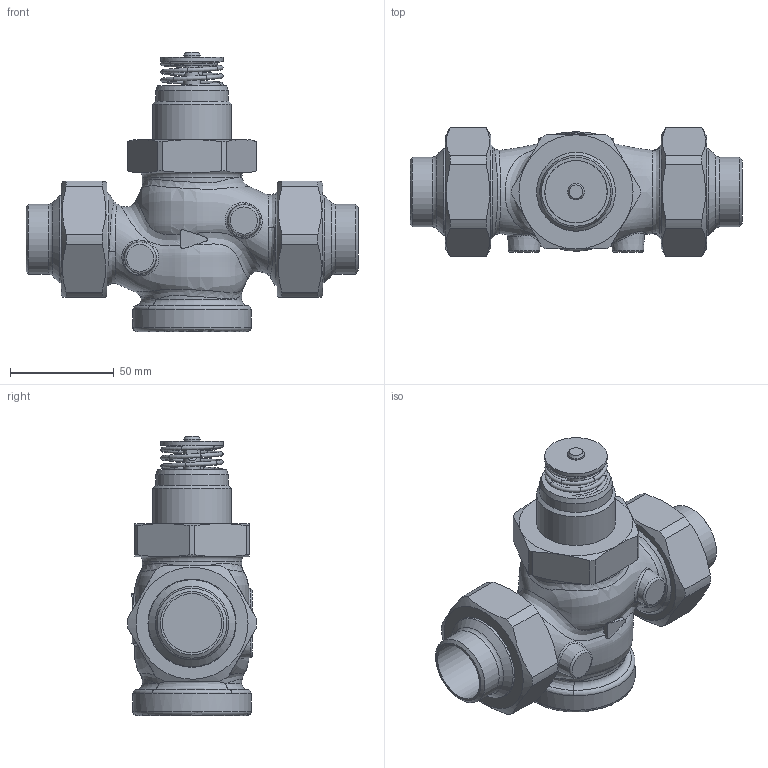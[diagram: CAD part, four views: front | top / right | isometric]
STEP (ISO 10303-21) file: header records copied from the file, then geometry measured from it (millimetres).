
FILE_DESCRIPTION(/* description */ (''),/* implementation_level */ '2;1');
FILE_NAME(/* name */ 'rv122r_dn25_W.stp',/* time_stamp */ '2012-05-24T07:16:16+02:00',/* author */ ('KLIMES'),/* organization */ ('LDM'),/* preprocessor_version */ 'ST-DEVELOPER v11',/* originating_system */ 'SIEMENS PLM Software NX 7.0',/* authorisation */ '');
FILE_SCHEMA (('CONFIG_CONTROL_DESIGN'));
Length unit declared in the file: millimetre
Products named in the file (1): klim6733ig1d
Bounding box: 160 x 61.98 x 134.5 mm (x, y, z)
Volume: 76817.2 mm3; surface area: 73762.6 mm2
Topology: 6 solids, 7 shells, 201 faces, 469 edges, 295 vertices
Faces by surface type: plane 58, cylinder 53, cone 36, torus 29, bspline 25
Full cylindrical faces by diameter (mm): 8 x2, 24.5 x1, 28.5 x2, 30 x1, 33 x2, 33.7 x2, 35 x1, 38 x1, 42 x2, 42.5 x2, 44 x2, 44.5 x2, 44.845 x2, 47.8 x2, 57 x1
Entity records: 11935 total; most frequent: CARTESIAN_POINT 7975, DIRECTION 775, ORIENTED_EDGE 712, AXIS2_PLACEMENT_3D 358, EDGE_CURVE 356, EDGE_LOOP 303, VERTEX_POINT 257, ADVANCED_FACE 201
